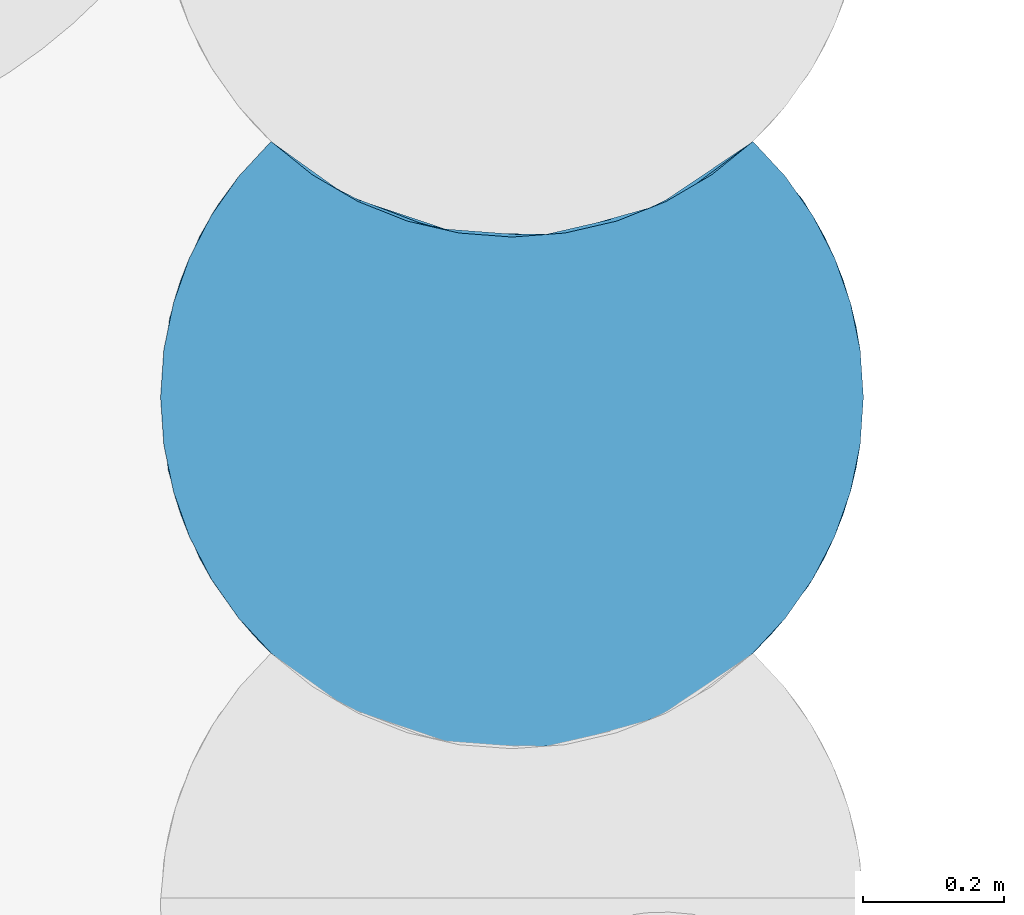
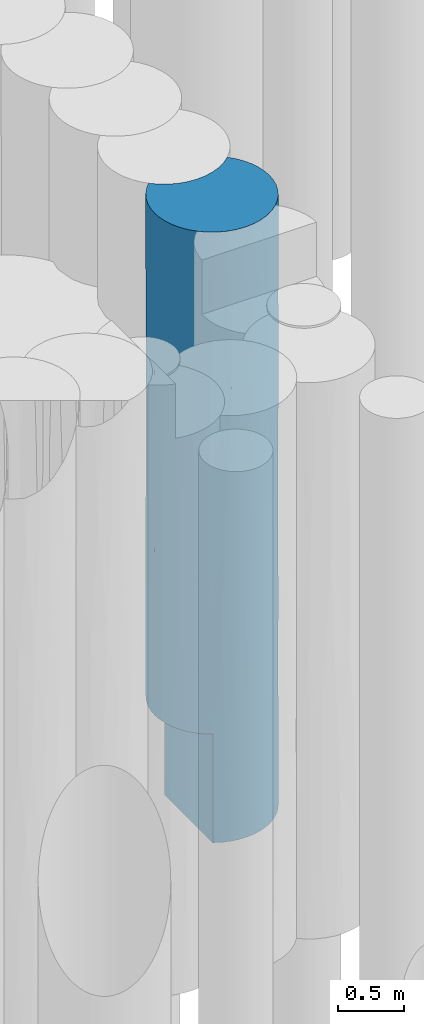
# One storey, part 43 of 104: 1 pile.
"""IFC2X3 building model written with IfcOpenShell, lengths in millimetres."""

from ifc_helpers import new_model, entity, si_unit, converted_unit, derived_unit, direction, frame, origin, place, context, subcontext, project, spatial, faceted_brep, source, transform, mapped, material, element, save


model = new_model("IFC2X3")

# Units and contexts
model_context = context("Model", 3, precision=0.01, world=origin(), true_north=direction((6.12303176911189e-17, 1.0)))
body_context = subcontext(model_context, "Body", "Model", "MODEL_VIEW")
ifc_project = project(units=[si_unit("LENGTHUNIT", "METRE", prefix="MILLI"), si_unit("AREAUNIT", "SQUARE_METRE", prefix="MILLI"), si_unit("VOLUMEUNIT", "CUBIC_METRE"), converted_unit("PLANEANGLEUNIT", "DEGREE", entity("IfcRatioMeasure", 0.0174532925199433), si_unit("PLANEANGLEUNIT", "RADIAN"), dimensions=[0, 0, 0, 0, 0, 0, 0]), si_unit("MASSUNIT", "GRAM", prefix="KILO"), derived_unit("MASSDENSITYUNIT", [(si_unit("MASSUNIT", "GRAM", prefix="KILO"), 1), (si_unit("LENGTHUNIT", "METRE"), -3)]), derived_unit("MOMENTOFINERTIAUNIT", [(si_unit("LENGTHUNIT", "METRE"), 4)]), si_unit("TIMEUNIT", "SECOND"), si_unit("FREQUENCYUNIT", "HERTZ"), si_unit("THERMODYNAMICTEMPERATUREUNIT", "DEGREE_CELSIUS"), derived_unit("THERMALTRANSMITTANCEUNIT", [(si_unit("MASSUNIT", "GRAM", prefix="KILO"), 1), (si_unit("THERMODYNAMICTEMPERATUREUNIT", "KELVIN"), -1), (si_unit("TIMEUNIT", "SECOND"), -3)]), derived_unit("VOLUMETRICFLOWRATEUNIT", [(si_unit("LENGTHUNIT", "METRE"), 3), (si_unit("TIMEUNIT", "SECOND"), -1)]), si_unit("ELECTRICCURRENTUNIT", "AMPERE"), si_unit("ELECTRICVOLTAGEUNIT", "VOLT"), si_unit("POWERUNIT", "WATT"), si_unit("FORCEUNIT", "NEWTON", prefix="KILO"), si_unit("ILLUMINANCEUNIT", "LUX"), si_unit("LUMINOUSFLUXUNIT", "LUMEN"), si_unit("LUMINOUSINTENSITYUNIT", "CANDELA"), derived_unit("USERDEFINED", [(si_unit("MASSUNIT", "GRAM", prefix="KILO"), -1), (si_unit("LENGTHUNIT", "METRE"), -2), (si_unit("TIMEUNIT", "SECOND"), 3), (si_unit("LUMINOUSFLUXUNIT", "LUMEN"), 1)]), derived_unit("LINEARVELOCITYUNIT", [(si_unit("LENGTHUNIT", "METRE"), 1), (si_unit("TIMEUNIT", "SECOND"), -1)]), si_unit("PRESSUREUNIT", "PASCAL"), derived_unit("USERDEFINED", [(si_unit("LENGTHUNIT", "METRE"), -2), (si_unit("MASSUNIT", "GRAM", prefix="KILO"), 1), (si_unit("TIMEUNIT", "SECOND"), -2)]), derived_unit("LINEARFORCEUNIT", [(si_unit("MASSUNIT", "GRAM", prefix="KILO"), 1), (si_unit("LENGTHUNIT", "METRE"), 1), (si_unit("TIMEUNIT", "SECOND"), -2), (si_unit("LENGTHUNIT", "METRE"), -1)]), derived_unit("PLANARFORCEUNIT", [(si_unit("MASSUNIT", "GRAM", prefix="KILO"), 1), (si_unit("LENGTHUNIT", "METRE"), 1), (si_unit("TIMEUNIT", "SECOND"), -2), (si_unit("LENGTHUNIT", "METRE"), -2)])], contexts=[model_context])

# Site, building, storey
site_placement = place(None, origin())
site = spatial("IfcSite", under=ifc_project, at=site_placement, Name="Theater aan de Parade", CompositionType="ELEMENT")
building_placement = place(site_placement, origin())
building = spatial("IfcBuilding", under=site, at=building_placement, Name="Theater aan de Parade", CompositionType="ELEMENT")
storey_placement = place(building_placement, frame((0.0, 0.0, -5520.0)))
storey = spatial("IfcBuildingStorey", under=building, at=storey_placement, Name="-2 kelder", CompositionType="ELEMENT", Elevation=-5520.0)

# Pile
ifc_material = material(Name="00_PBT_MAT_grout")
shared_shape = source(origin(), body_context, "Body", "Brep", [
    faceted_brep([(844.383836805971, 865.595272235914, 0.0), (890.54651868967, 815.787773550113, 0.0), (929.522999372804, 760.202813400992, 0.0), (960.609902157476, 699.85159500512, 0.0), (983.235934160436, 635.842330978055, 0.0), (996.98227680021, 569.357471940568, 0.0), (1001.59527223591, 501.595272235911, 0.0), (996.982363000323, 433.833702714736, 0.0), (983.232797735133, 367.336961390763, 0.0), (960.601026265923, 303.318400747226, 0.0), (929.506379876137, 242.960232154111, 0.0), (890.523168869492, 187.37386745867, 0.0), (844.367328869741, 137.587565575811, 0.0), (789.900252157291, 93.0854944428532, 0.0), (729.725628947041, 56.6721998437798, 0.0), (665.036786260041, 29.0628696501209, 0.0), (597.113268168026, 10.803755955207, 0.0), (527.298587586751, 2.25636970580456, 0.0), (456.973729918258, 3.5903345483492, 0.0), (387.529915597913, 14.7800152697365, 0.0), (320.34218923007, 35.6045857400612, 0.0), (256.737142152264, 65.6543403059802, 0.0), (256.737142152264, 793.654340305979, 0.0), (320.332660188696, 763.608292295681, 0.0), (387.514773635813, 742.783563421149, 0.0), (456.954548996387, 731.592053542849, 0.0), (527.278433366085, 730.255332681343, 0.0), (597.095332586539, 738.800265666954, 0.0), (665.024042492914, 757.058461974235, 0.0), (729.720490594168, 784.669565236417, 0.0), (789.902741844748, 821.087251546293, 0.0), (946.091901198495, 730.555414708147, 1043.52260300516), (844.383836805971, 865.595272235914, 1561.53796445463), (991.802660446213, 600.067179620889, 2700.88189763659), (1001.59527223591, 501.595272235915, 1561.53772532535), (973.010577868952, 668.231431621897, 1936.06593957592), (985.215355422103, 628.526809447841, 1004.42467996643), (1001.59527223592, 501.595272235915, 4058.46227467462), (1001.59527223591, 501.595272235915, 3123.0754506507), (973.010577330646, 668.231433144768, 3903.08947333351), (929.522999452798, 760.202813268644, 5620.0), (960.609902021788, 699.851595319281, 5620.0), (946.091900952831, 730.555415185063, 4676.4192162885), (913.551239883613, 784.954197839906, 2342.30656510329), (844.383836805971, 865.595272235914, 3123.07592890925), (918.831384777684, 777.120273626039, 3590.76885473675), (991.238840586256, 602.833486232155, 4676.41593122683), (844.383836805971, 865.59527223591, 2810.0), (890.546518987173, 815.787773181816, 5620.0), (1001.59527223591, 501.595272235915, 5620.0), (844.383836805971, 865.595272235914, 4058.46263982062), (844.383836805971, 865.59527223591, 4215.0), (844.383836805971, 865.595272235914, 5620.0), (844.383836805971, 865.59527223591, 1405.0), (959.857267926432, 701.585130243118, 2919.57770266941), (983.235934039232, 635.842331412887, 5620.0), (996.982276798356, 569.357471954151, 5620.0), (75.6274737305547, 239.771983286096, 1995.61399229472), (30.1805830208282, 334.957369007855, 2218.27442105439), (42.5824247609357, 303.334822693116, 1000.0), (134.88277774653, 161.710076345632, 2418.55345061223), (112.651413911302, 187.39362508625, 1000.0), (158.80670766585, 137.59527223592, 1000.0), (720.545942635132, 52.0837552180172, 5620.0), (753.846008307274, 69.8898562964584, 4632.57729967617), (785.707284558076, 90.1583214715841, 5620.0), (205.55656057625, 98.6547292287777, 1000.0), (230.643976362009, 81.3746215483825, 2134.89297890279), (422.054809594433, 7.96249900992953, 1451.97849466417), (346.510097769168, 26.2547746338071, 890.802674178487), (463.858644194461, 3.02135905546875, 2888.34534531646), (335.305702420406, 30.0575972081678, 2719.3493512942), (562.356411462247, 5.30092010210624, 1266.29474004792), (6.20734057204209, 433.839850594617, 1000.0), (1.5952722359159, 501.595272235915, 2561.53770843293), (1.5952722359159, 501.595272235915, 1000.0), (946.079419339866, 272.61089946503, 1043.5794793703), (800.820323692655, 101.01523206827, 2100.83103257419), (868.292389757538, 161.69348641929, 1387.65589207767), (868.29238979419, 161.693486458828, 2809.98987631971), (760.454010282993, 73.8194504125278, 1100.89175136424), (973.004901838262, 334.9430561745, 1936.13925481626), (985.208818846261, 374.638832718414, 1004.44881837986), (256.737142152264, 65.6543403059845, 1000.0), (112.644025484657, 187.402771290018, 5620.0), (134.87878151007, 161.714388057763, 4196.65892270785), (158.806707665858, 137.595272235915, 5620.0), (352.795268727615, 24.2499475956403, 5620.0), (389.245844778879, 14.3811446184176, 4188.02464063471), (426.337278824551, 7.29148464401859, 5620.0), (249.344536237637, 69.8898562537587, 4479.12567170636), (217.483259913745, 90.1583214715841, 5620.0), (73.6725420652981, 242.979462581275, 1000.0), (922.593400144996, 231.853587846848, 2115.32147684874), (19.9543975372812, 367.348976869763, 1000.0), (1.5952722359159, 501.595272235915, 5620.0), (1.5952722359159, 501.595272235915, 4123.07541686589), (6.20826767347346, 433.833072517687, 5620.0), (30.1799661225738, 334.959114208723, 4401.71203002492), (502.471540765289, 1.59604008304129, 2022.39135488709), (868.311763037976, 161.714388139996, 4232.3426859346), (792.130237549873, 94.668455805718, 3561.93124791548), (57.1018841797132, 272.628838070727, 3309.99400258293), (73.1041314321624, 243.922335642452, 4207.1244588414), (42.5806424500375, 303.338949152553, 5620.0), (19.9546104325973, 367.348213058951, 5620.0), (230.643976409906, 81.3746215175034, 3303.80572417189), (960.609902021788, 303.338949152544, 5620.0), (929.522999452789, 242.987731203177, 5620.0), (946.091901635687, 272.635130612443, 4676.41921033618), (959.029264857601, 299.718719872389, 2919.64207956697), (73.6675450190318, 242.987731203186, 5620.0), (596.943864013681, 10.7708168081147, 2804.93339199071), (539.331900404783, 3.02135906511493, 4273.08668055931), (722.454643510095, 53.018480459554, 2969.07538106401), (576.853265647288, 7.29148464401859, 5620.0), (665.238504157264, 29.1326889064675, 4728.7430145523), (282.644601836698, 52.0837552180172, 5620.0), (973.010578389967, 334.959114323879, 3903.08946802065), (991.556587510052, 401.906207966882, 2715.85143927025), (317.862121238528, 36.5768540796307, 1755.52061088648), (12.4038606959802, 398.194291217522, 3331.8912946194), (697.867280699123, 41.7286625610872, 2048.61973065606), (664.567992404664, 28.9009815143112, 1130.20477478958), (991.238840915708, 400.357059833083, 4676.41592103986), (983.235934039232, 367.348213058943, 5620.0), (996.982276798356, 433.833072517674, 5620.0), (152.551743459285, 143.588826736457, 3307.61325341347), (501.595272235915, 1.5952722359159, 5620.0), (926.234759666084, 237.623103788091, 3739.11688153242), (844.383836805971, 137.595272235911, 5620.0), (650.395275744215, 24.2499475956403, 5620.0), (890.546518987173, 187.402771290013, 5620.0), (685.996518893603, 36.8413801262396, 3849.22576669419), (785.695330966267, 818.150067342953, 5620.0), (720.53458465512, 780.07822308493, 5620.0), (650.386060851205, 752.247075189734, 5620.0), (576.847851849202, 735.290660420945, 5620.0), (501.595272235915, 729.595272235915, 5620.0), (426.342692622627, 735.290660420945, 5620.0), (352.804483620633, 752.247075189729, 5620.0), (282.655959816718, 780.07822308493, 5620.0), (217.495213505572, 818.150067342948, 5620.0), (158.806707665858, 865.59527223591, 5620.0), (112.651085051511, 815.796512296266, 5620.0), (73.6726367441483, 760.211238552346, 5620.0), (42.5833372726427, 699.857834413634, 5620.0), (19.9555086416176, 635.84555389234, 5620.0), (6.20818208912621, 569.356846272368, 5620.0), (422.037626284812, 735.965268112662, 809.439239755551), (158.806707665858, 865.595272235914, 1000.0), (158.806707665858, 865.595272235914, 2561.53770736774), (205.578323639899, 826.638740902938, 1000.0), (256.737142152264, 793.654340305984, 1000.0), (317.204383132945, 764.83727067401, 4600.85724456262), (562.337327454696, 733.298584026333, 1307.20068901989), (258.237007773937, 792.815287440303, 3390.49133173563), (225.507460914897, 812.73136106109, 4669.40036667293), (753.834283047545, 797.883005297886, 4692.95922475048), (340.972540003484, 756.097291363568, 1245.26829094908), (760.452843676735, 801.818744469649, 933.904601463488), (562.337327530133, 733.298584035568, 2802.30532647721), (539.329170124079, 731.021152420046, 4250.35305226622), (685.986161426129, 764.837270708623, 3987.22153552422), (341.790733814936, 755.82052670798, 2937.07933647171), (389.253215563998, 742.379445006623, 3777.86693941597), (441.601980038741, 733.207515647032, 2778.54310899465), (773.724086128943, 810.136205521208, 3787.61622226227), (677.041029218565, 761.387213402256, 849.093383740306), (672.457323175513, 759.695113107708, 4812.22637279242), (158.806707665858, 865.595272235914, 4123.0754147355), (267.680937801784, 787.685684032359, 2194.5411358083), (422.03762634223, 735.96526810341, 1681.09734198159), (415.046579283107, 737.142915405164, 4686.05792310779), (778.707993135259, 813.411971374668, 1759.56848415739), (697.858424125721, 769.724882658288, 1681.12039109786), (708.509039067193, 774.417622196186, 2842.65985011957), (57.0976620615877, 730.55350980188, 2936.01182480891), (77.6278143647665, 766.645446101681, 2004.37665318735), (30.1816560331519, 668.236210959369, 4223.57134425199), (14.2722960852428, 613.4716187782, 3074.84642249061), (30.1762796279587, 668.221000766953, 2043.51622702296), (42.5776896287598, 699.844758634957, 1000.0), (19.9506701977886, 635.828194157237, 1000.0), (73.6691815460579, 760.205521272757, 1000.0), (83.5815302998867, 775.939055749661, 4493.22792042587), (6.20537477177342, 569.336319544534, 1000.0), (112.651806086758, 815.797404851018, 1000.0)], [[[0, 1, 2, 3, 4, 5, 6, 7, 8, 9, 10, 11, 12, 13, 14, 15, 16, 17, 18, 19, 20, 21, 22, 23, 24, 25, 26, 27, 28, 29, 30]], [[31, 1, 32]], [[31, 3, 2]], [[33, 34, 35]], [[31, 36, 3]], [[37, 38, 39]], [[4, 3, 36]], [[40, 41, 42]], [[43, 44, 45]], [[42, 46, 39]], [[43, 32, 47, 44]], [[48, 40, 42]], [[49, 37, 46]], [[48, 50, 51, 52]], [[1, 0, 53, 32]], [[35, 54, 33]], [[6, 5, 34]], [[41, 55, 42]], [[5, 4, 36]], [[55, 56, 46]], [[43, 31, 32]], [[46, 42, 55]], [[50, 45, 44]], [[45, 42, 39]], [[31, 35, 36]], [[48, 42, 50]], [[1, 31, 2]], [[49, 46, 56]], [[37, 39, 46]], [[42, 45, 50]], [[54, 45, 39]], [[54, 43, 45]], [[31, 43, 35]], [[35, 34, 36]], [[5, 36, 34]], [[33, 39, 38]], [[43, 54, 35]], [[39, 33, 54]], [[34, 33, 38]], [[57, 58, 59]], [[60, 61, 62]], [[63, 64, 65]], [[66, 67, 62]], [[68, 69, 18]], [[70, 71, 68]], [[16, 72, 17]], [[73, 74, 75]], [[67, 60, 62]], [[11, 10, 76]], [[18, 69, 19]], [[77, 78, 79]], [[12, 80, 13]], [[72, 18, 17]], [[81, 76, 82]], [[34, 82, 7]], [[83, 21, 20]], [[84, 85, 86]], [[87, 88, 89]], [[90, 91, 86]], [[90, 86, 85]], [[67, 66, 83]], [[59, 92, 57]], [[93, 76, 81]], [[73, 94, 58]], [[61, 60, 57]], [[95, 96, 97]], [[98, 97, 96]], [[68, 72, 99]], [[100, 64, 101]], [[98, 102, 103]], [[103, 104, 98]], [[104, 105, 98]], [[106, 90, 85]], [[107, 108, 109]], [[93, 81, 110]], [[103, 111, 104]], [[70, 112, 113]], [[77, 101, 114]], [[115, 113, 116]], [[90, 117, 91]], [[118, 110, 119]], [[87, 90, 88]], [[67, 120, 71]], [[89, 88, 113]], [[88, 90, 106]], [[13, 80, 14]], [[73, 58, 74]], [[121, 58, 102]], [[78, 80, 12]], [[80, 122, 123]], [[70, 113, 88]], [[72, 122, 112]], [[80, 123, 14]], [[11, 78, 12]], [[123, 16, 15]], [[34, 7, 6]], [[119, 34, 38]], [[109, 124, 125]], [[124, 126, 125]], [[9, 76, 10]], [[97, 98, 105]], [[67, 106, 127]], [[82, 76, 9]], [[9, 8, 82]], [[49, 126, 124]], [[121, 96, 74]], [[38, 37, 118]], [[115, 128, 113]], [[112, 122, 114]], [[80, 77, 122]], [[121, 102, 98]], [[128, 89, 113]], [[116, 64, 63]], [[67, 71, 106]], [[109, 129, 118]], [[122, 72, 123]], [[130, 65, 64]], [[63, 131, 116]], [[130, 100, 132]], [[127, 102, 60]], [[103, 84, 111]], [[129, 110, 118]], [[118, 124, 109]], [[90, 87, 117]], [[102, 58, 57]], [[109, 132, 100]], [[60, 67, 127]], [[109, 125, 107]], [[68, 120, 69]], [[71, 88, 106]], [[18, 72, 68]], [[116, 133, 64]], [[94, 59, 58]], [[11, 76, 78]], [[132, 109, 108]], [[129, 109, 100]], [[118, 37, 124]], [[49, 124, 37]], [[101, 64, 133]], [[130, 64, 100]], [[114, 101, 133]], [[79, 100, 101]], [[67, 83, 120]], [[88, 71, 70]], [[100, 79, 129]], [[79, 93, 110]], [[79, 110, 129]], [[119, 110, 81]], [[79, 78, 93]], [[76, 93, 78]], [[96, 121, 98]], [[58, 121, 74]], [[34, 119, 81]], [[118, 119, 38]], [[78, 77, 80]], [[101, 77, 79]], [[7, 82, 8]], [[34, 81, 82]], [[115, 116, 131]], [[113, 133, 116]], [[16, 123, 72]], [[14, 123, 15]], [[69, 120, 83]], [[68, 71, 120]], [[83, 20, 69]], [[19, 69, 20]], [[133, 113, 112]], [[77, 114, 122]], [[133, 112, 114]], [[112, 70, 99]], [[106, 85, 127]], [[127, 85, 103]], [[127, 103, 102]], [[103, 85, 84]], [[61, 57, 92]], [[102, 57, 60]], [[112, 99, 72]], [[70, 68, 99]], [[134, 135, 136, 137, 138, 139, 140, 141, 142, 143, 144, 145, 146, 147, 148, 95, 97, 105, 104, 111, 84, 86, 91, 117, 87, 89, 128, 115, 131, 63, 65, 130, 132, 108, 107, 125, 126, 49, 56, 55, 41, 40, 48, 52]], [[25, 24, 149]], [[150, 151, 152]], [[23, 22, 153]], [[141, 140, 154]], [[149, 155, 26]], [[156, 157, 154]], [[52, 158, 134]], [[149, 24, 159]], [[30, 160, 0]], [[161, 162, 163]], [[164, 165, 166]], [[163, 158, 167]], [[29, 28, 168]], [[162, 169, 163]], [[143, 157, 170]], [[154, 157, 141]], [[153, 152, 171]], [[155, 149, 172, 161]], [[154, 173, 165]], [[158, 51, 167]], [[27, 26, 155]], [[53, 160, 174]], [[166, 165, 162]], [[174, 160, 175]], [[175, 160, 168]], [[136, 135, 169]], [[175, 155, 161]], [[28, 27, 168]], [[160, 30, 29]], [[139, 138, 173]], [[160, 29, 168]], [[140, 139, 173]], [[138, 137, 162]], [[159, 24, 23]], [[161, 172, 166]], [[169, 162, 137]], [[163, 169, 158]], [[175, 161, 176]], [[176, 167, 47]], [[171, 159, 153]], [[0, 160, 53]], [[134, 158, 135]], [[173, 154, 140]], [[142, 141, 157]], [[156, 154, 165]], [[51, 158, 52]], [[26, 25, 149]], [[172, 149, 159]], [[156, 151, 170]], [[151, 171, 152]], [[166, 172, 164]], [[153, 159, 23]], [[159, 171, 172]], [[156, 171, 151]], [[163, 167, 176]], [[167, 51, 50, 44, 47]], [[163, 176, 161]], [[174, 175, 176]], [[173, 162, 165]], [[162, 173, 138]], [[168, 155, 175]], [[155, 168, 27]], [[174, 47, 32, 53]], [[47, 174, 176]], [[158, 169, 135]], [[137, 136, 169]], [[161, 166, 162]], [[164, 156, 165]], [[164, 171, 156]], [[171, 164, 172]], [[142, 157, 143]], [[170, 157, 156]], [[177, 170, 151]], [[177, 151, 178]], [[179, 177, 180]], [[181, 178, 182]], [[181, 182, 183]], [[184, 182, 178]], [[180, 96, 179]], [[96, 95, 148]], [[144, 170, 185]], [[143, 170, 144]], [[181, 186, 74]], [[187, 178, 151]], [[180, 177, 181]], [[150, 187, 151]], [[186, 181, 183]], [[148, 147, 179]], [[178, 187, 184]], [[179, 185, 177]], [[186, 75, 74]], [[146, 185, 179]], [[145, 185, 146]], [[181, 177, 178]], [[148, 179, 96]], [[180, 181, 74]], [[96, 180, 74]], [[179, 147, 146]], [[144, 185, 145]], [[177, 185, 170]], [[186, 183, 182, 184, 187, 150, 152, 153, 83, 66, 62, 61, 92, 59, 94, 73, 75]], [[153, 22, 21, 83]]]),
])
pile_placement = place(storey_placement, frame((38948.2628578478, 23700.7721311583, -3840.0)))
element("IfcPile", 1, at=pile_placement, inside=storey, material=ifc_material, Name="17_PBT_SFO_grondkering_rond:Ø1000 (grondkering)", ObjectType="17_PBT_SFO_grondkering_rond:Ø1000 (grondkering)", PredefinedType="NOTDEFINED", context=body_context, shape_type="MappedRepresentation", body=[
    mapped(shared_shape, transform((0.0, 0.0, 0.0), scale=1.0)),
])

save(model, "model.ifc")
